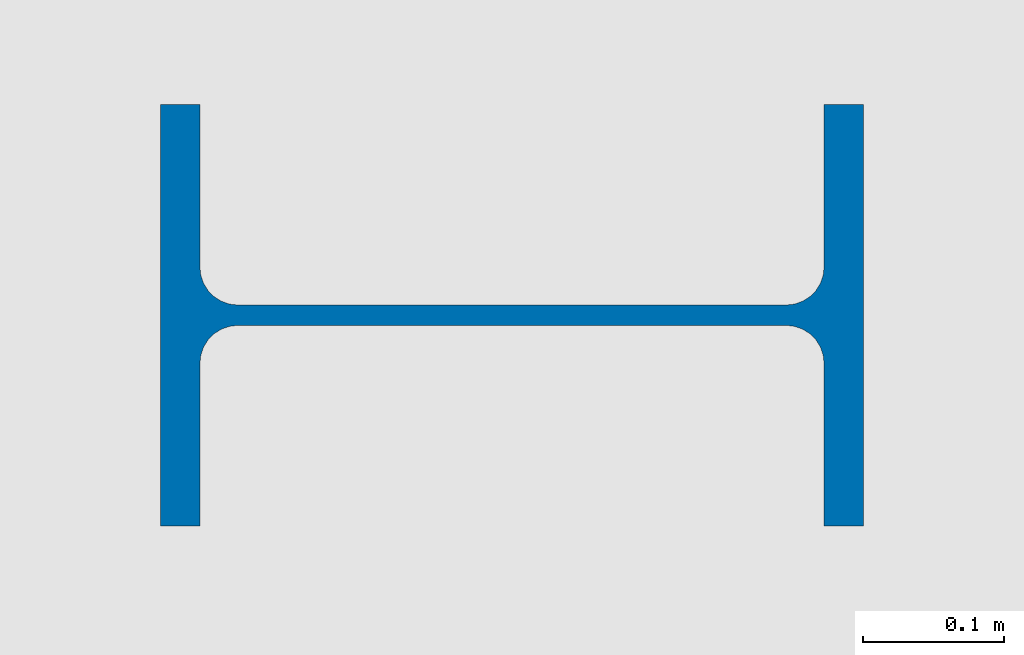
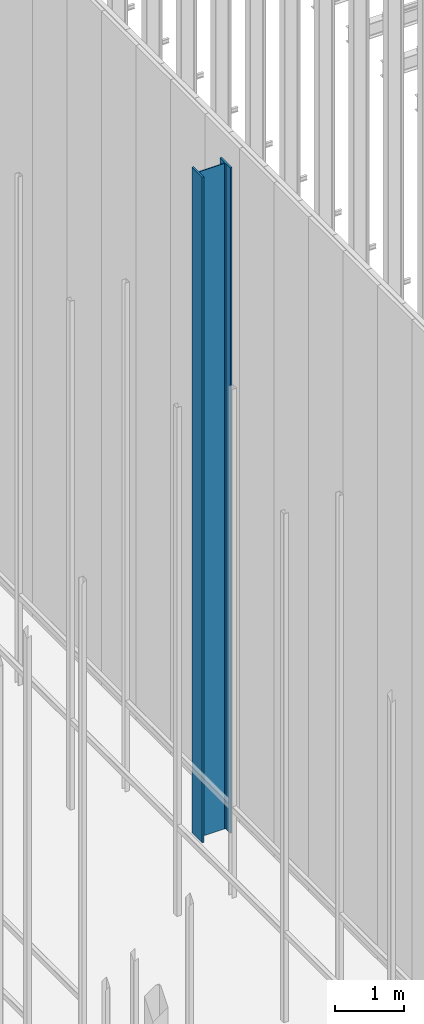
# One storey, part 27 of 302: 1 column.
"""IFC2X3 building model written with IfcOpenShell, lengths in metres."""

from ifc_helpers import new_model, entity, si_unit, converted_unit, derived_unit, direction, frame, frame_2d, origin, place, context, subcontext, project, spatial, i_section, extrude, source, transform, mapped, material, type_object, type_shapes, element, save


model = new_model("IFC2X3")

# Units and contexts
model_context = context("Model", 3, precision=1e-05, world=origin(), true_north=direction((6.12303176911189e-17, 1.0)))
body_context = subcontext(model_context, "Body", "Model", "MODEL_VIEW")
ifc_project = project(units=[si_unit("LENGTHUNIT", "METRE"), si_unit("AREAUNIT", "SQUARE_METRE"), si_unit("VOLUMEUNIT", "CUBIC_METRE"), converted_unit("PLANEANGLEUNIT", "DEGREE", entity("IfcRatioMeasure", 0.0174532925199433), si_unit("PLANEANGLEUNIT", "RADIAN"), dimensions=[0, 0, 0, 0, 0, 0, 0]), si_unit("MASSUNIT", "GRAM", prefix="KILO"), derived_unit("MASSDENSITYUNIT", [(si_unit("MASSUNIT", "GRAM", prefix="KILO"), 1), (si_unit("LENGTHUNIT", "METRE"), -3)]), derived_unit("MOMENTOFINERTIAUNIT", [(si_unit("LENGTHUNIT", "METRE"), 4)]), si_unit("TIMEUNIT", "SECOND"), si_unit("FREQUENCYUNIT", "HERTZ"), si_unit("THERMODYNAMICTEMPERATUREUNIT", "DEGREE_CELSIUS"), derived_unit("THERMALTRANSMITTANCEUNIT", [(si_unit("MASSUNIT", "GRAM", prefix="KILO"), 1), (si_unit("THERMODYNAMICTEMPERATUREUNIT", "KELVIN"), -1), (si_unit("TIMEUNIT", "SECOND"), -3)]), derived_unit("VOLUMETRICFLOWRATEUNIT", [(si_unit("LENGTHUNIT", "METRE"), 3), (si_unit("TIMEUNIT", "SECOND"), -1)]), si_unit("ELECTRICCURRENTUNIT", "AMPERE"), si_unit("ELECTRICVOLTAGEUNIT", "VOLT"), si_unit("POWERUNIT", "WATT"), si_unit("FORCEUNIT", "NEWTON", prefix="KILO"), si_unit("ILLUMINANCEUNIT", "LUX"), si_unit("LUMINOUSFLUXUNIT", "LUMEN"), si_unit("LUMINOUSINTENSITYUNIT", "CANDELA"), derived_unit("USERDEFINED", [(si_unit("MASSUNIT", "GRAM", prefix="KILO"), -1), (si_unit("LENGTHUNIT", "METRE"), -2), (si_unit("TIMEUNIT", "SECOND"), 3), (si_unit("LUMINOUSFLUXUNIT", "LUMEN"), 1)]), derived_unit("LINEARVELOCITYUNIT", [(si_unit("LENGTHUNIT", "METRE"), 1), (si_unit("TIMEUNIT", "SECOND"), -1)]), si_unit("PRESSUREUNIT", "PASCAL"), derived_unit("USERDEFINED", [(si_unit("LENGTHUNIT", "METRE"), -2), (si_unit("MASSUNIT", "GRAM", prefix="KILO"), 1), (si_unit("TIMEUNIT", "SECOND"), -2)]), derived_unit("LINEARFORCEUNIT", [(si_unit("MASSUNIT", "GRAM", prefix="KILO"), 1), (si_unit("LENGTHUNIT", "METRE"), 1), (si_unit("TIMEUNIT", "SECOND"), -2), (si_unit("LENGTHUNIT", "METRE"), -1)]), derived_unit("PLANARFORCEUNIT", [(si_unit("MASSUNIT", "GRAM", prefix="KILO"), 1), (si_unit("LENGTHUNIT", "METRE"), 1), (si_unit("TIMEUNIT", "SECOND"), -2), (si_unit("LENGTHUNIT", "METRE"), -2)])], contexts=[model_context])

# Site, building, storey
site_placement = place(None, origin())
site = spatial("IfcSite", under=ifc_project, at=site_placement, Name="Default", CompositionType="ELEMENT")
building_placement = place(site_placement, origin())
building = spatial("IfcBuilding", under=site, at=building_placement, CompositionType="ELEMENT")
storey_placement = place(building_placement, frame((0.0, 0.0, -1.3)))
storey = spatial("IfcBuildingStorey", under=building, at=storey_placement, Name="00_EG", CompositionType="ELEMENT", Elevation=-1.3)

# Column
ifc_material = material(Name="Metall - Baustahl S235")
column_type = type_object("IfcColumnType", Name="HEB Stütze:HEB 500", PredefinedType="COLUMN", material=ifc_material)
shared_shape = source(origin(), body_context, "Body", "SweptSolid", [
    extrude(i_section(OverallWidth=0.3, OverallDepth=0.5, WebThickness=0.0145, FlangeThickness=0.028, FilletRadius=0.027, at=frame_2d((0.0, -2.77555756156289e-17), x_axis=(0.0, 1.0))), frame((0.0, 0.0, -0.0300000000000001), z_axis=(0.0, 0.0, 1.0), x_axis=(0.0, -1.0, 0.0)), (0.0, 0.0, 1.0), 11.775),
])
type_shapes(column_type, [shared_shape])
column_placement = place(storey_placement, frame((-177.890111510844, 31.728088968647, 1.3), z_axis=(0.0, 0.0, 1.0), x_axis=(0.0, -1.0, 0.0)))
element("IfcColumn", 1, at=column_placement, inside=storey, type_object=column_type, material=ifc_material, Name="HEB Stütze:HEB 500", ObjectType="HEB Stütze:HEB 500", context=body_context, shape_type="MappedRepresentation", body=[
    mapped(shared_shape, transform((0.0, 0.0, 0.0), scale=1.0)),
])

save(model, "model.ifc")
